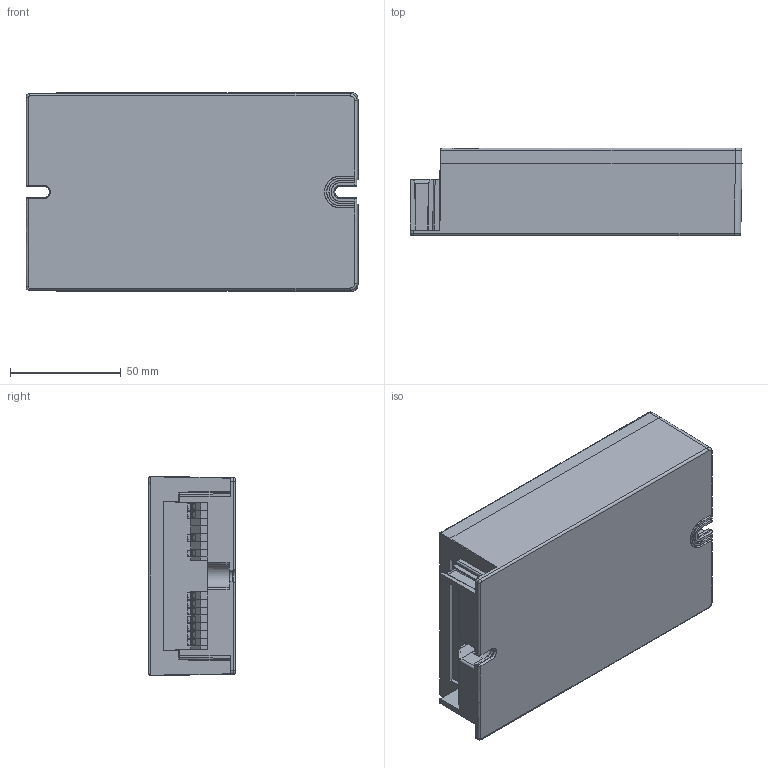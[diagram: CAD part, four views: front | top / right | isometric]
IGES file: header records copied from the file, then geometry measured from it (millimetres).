
Start section: SolidWorks IGES file using analytic representation for surfaces
Global section: file name: D:\ECTR_TEMP\OLQ-batchEngine\queue\temp\4188449swm000.igs; native system: SolidWorks 2017; preprocessor: SolidWorks 2017; author: SYSTEM; date: 200203.123127; units: millimetre
Bounding box: 149.93 x 39.5 x 89.83 mm (x, y, z)
Surface area: 49493.8 mm2 (no closed solid volume)
Topology: 0 solids, 0 shells, 686 faces, 4568 edges, 4566 vertices
Faces by surface type: bspline 527, revolution 159
